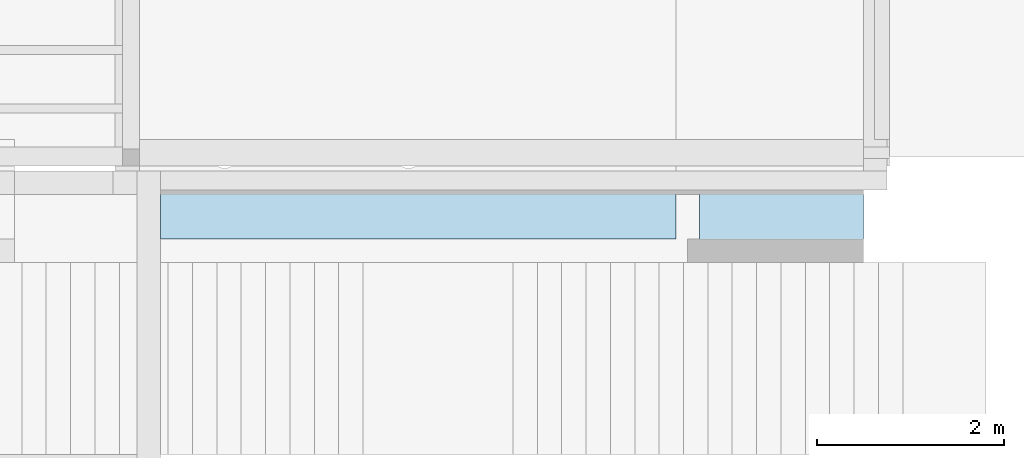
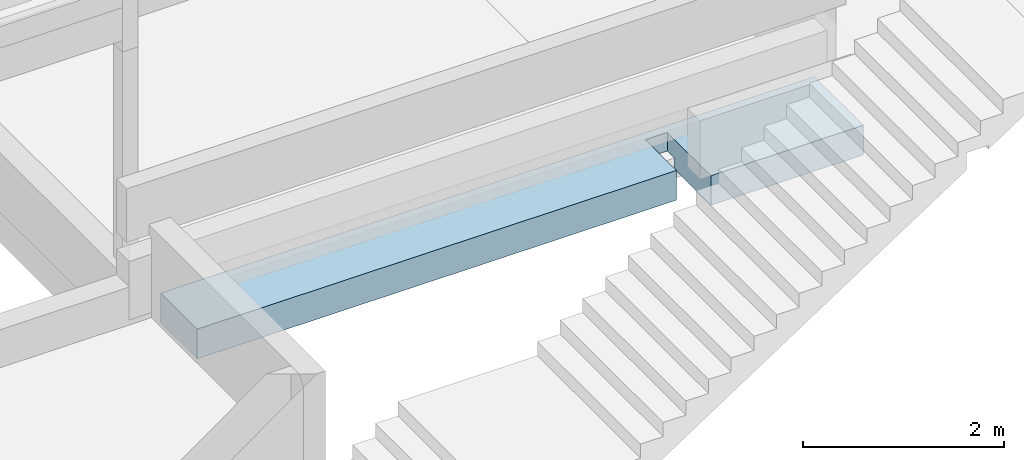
# One storey, part 13 of 14: 1 slab.
"""IFC2X3 building model written with IfcOpenShell, lengths in metres."""

from ifc_helpers import new_model, entity, si_unit, converted_unit, direction, frame, origin, place, context, subcontext, project, spatial, faceted_brep, material, type_object, element, save


model = new_model("IFC2X3")

# Units and contexts
model_context = context("Model", 3, precision=1e-05, world=frame((30.086303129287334, 2.687674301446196, 462.0)), true_north=direction((0.19008937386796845, 0.9817667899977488)))
body_context = subcontext(model_context, "Body", "Model", "MODEL_VIEW")
ifc_project = project(units=[si_unit("LENGTHUNIT", "METRE"), si_unit("AREAUNIT", "SQUARE_METRE"), converted_unit("PLANEANGLEUNIT", "DEGREE", entity("IfcPlaneAngleMeasure", 0.017453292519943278), si_unit("PLANEANGLEUNIT", "RADIAN"), dimensions=[0, 0, 0, 0, 0, 0, 0]), si_unit("VOLUMEUNIT", "CUBIC_METRE")], contexts=[model_context])

# Site, building, storey
site_placement = place(None, origin())
site = spatial("IfcSite", under=ifc_project, at=site_placement, Name="Default", CompositionType="ELEMENT")
building_placement = place(site_placement, origin())
building = spatial("IfcBuilding", under=site, at=building_placement, CompositionType="ELEMENT")
storey_placement = place(building_placement, origin())
storey = spatial("IfcBuildingStorey", under=building, at=storey_placement, Name="FB_E00_OKFB", CompositionType="ELEMENT", Elevation=0.0)

# Slab
ifc_material = material(Name="WS_CONCRETE_REINFORCED")
slab_type = type_object("IfcSlabType", Name="Geschossdecke:WS_SLB_CON_360", PredefinedType="FLOOR")
slab_placement = place(storey_placement, origin())
element("IfcSlab", 1, at=slab_placement, inside=storey, type_object=slab_type, material=ifc_material, Name="Geschossdecke:WS_SLB_CON_360", ObjectType="Geschossdecke:WS_SLB_CON_360", PredefinedType="FLOOR", context=body_context, shape_type="Brep", body=[
    faceted_brep([(89.98033735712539, -20.639559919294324, 3.849999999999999), (89.9803369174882, -21.364656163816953, 3.849999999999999), (84.48033873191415, -21.36465616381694, 3.849999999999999), (84.48033873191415, -20.639559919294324, 3.849999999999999), (91.98033873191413, -21.614656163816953, 4.209999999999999), (91.98033873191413, -21.36465616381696, 4.209999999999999), (91.98033873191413, -20.889559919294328, 4.209999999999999), (91.98033873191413, -20.639559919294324, 4.209999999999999), (84.48033873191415, -20.639559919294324, 4.209999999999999), (84.48033873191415, -20.889559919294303, 4.209999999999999), (84.48033873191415, -21.36465616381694, 4.209999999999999), (89.9803369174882, -21.364656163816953, 4.209999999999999), (89.9803369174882, -20.749559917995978, 4.209999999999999), (90.2303369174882, -20.749559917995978, 4.209999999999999), (90.2303369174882, -21.364656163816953, 4.209999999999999), (90.2303369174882, -21.614656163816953, 4.209999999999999), (91.98033873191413, -21.614656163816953, 3.849999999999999), (91.98033873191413, -20.889559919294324, 3.849999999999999), (91.98033873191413, -20.889559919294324, 3.984999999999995), (91.98033873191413, -20.639559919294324, 3.984999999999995), (89.98033735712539, -20.639559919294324, 3.984999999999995), (84.48033873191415, -20.639559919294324, 4.1499999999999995), (90.2303369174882, -21.614656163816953, 3.849999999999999), (90.2303369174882, -20.749559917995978, 3.984999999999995), (90.2303369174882, -20.889559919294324, 3.984999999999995), (90.2303369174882, -20.889559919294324, 3.849999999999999), (89.9803369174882, -20.749559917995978, 3.984999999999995)], [[[0, 1, 2, 3]], [[4, 5, 6, 7, 8, 9, 10, 11, 12, 13, 14, 15]], [[7, 6, 5, 4, 16, 17, 18, 19]], [[2, 1, 11, 10]], [[8, 7, 19, 20, 0, 3, 21]], [[3, 2, 10, 9, 8, 21]], [[22, 16, 4, 15]], [[15, 14, 13, 23, 24, 25, 22]], [[18, 24, 23, 26, 20, 19]], [[24, 18, 17, 25]], [[13, 12, 26, 23]], [[12, 11, 1, 0, 20, 26]], [[16, 22, 25, 17]]]),
])

save(model, "model.ifc")
